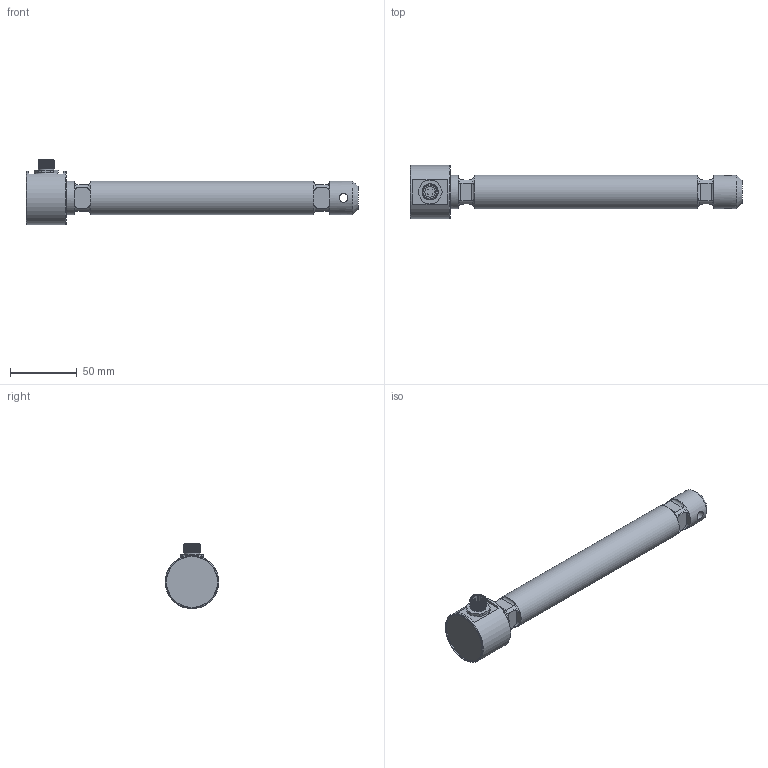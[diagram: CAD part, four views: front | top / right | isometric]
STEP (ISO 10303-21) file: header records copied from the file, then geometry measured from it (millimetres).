
FILE_DESCRIPTION(/* description */ ('Alibre Inc.'),/* implementation_level */ '2;1');
FILE_NAME(/* name */ 'export0',/* time_stamp */ '2013-12-19T11:17:39+01:00',/* author */ (''),/* organization */ (''),/* preprocessor_version */ 'ST-DEVELOPER v14',/* originating_system */ 'Alibre',/* authorisation */ '');
FILE_SCHEMA (('CONFIG_CONTROL_DESIGN'));
Length unit declared in the file: centimetre
Products named in the file (6): ID_1; ID_2
Bounding box: 248 x 40 x 48.86 mm (x, y, z)
Volume: 137230.1 mm3; surface area: 28173.7 mm2
Topology: 8 solids, 8 shells, 201 faces, 455 edges, 278 vertices
Faces by surface type: plane 81, cylinder 73, bspline 23, torus 17, cone 7
Full cylindrical faces by diameter (mm): 0.5 x8, 6.5 x1, 8 x2, 10 x4, 11.5 x1, 13 x1, 14.376 x1, 25 x3, 38 x1, 40 x1
Entity records: 19061 total; most frequent: CARTESIAN_POINT 14874, ORIENTED_EDGE 836, DIRECTION 513, EDGE_CURVE 413, VERTEX_POINT 268, FACE_BOUND 250, EDGE_LOOP 249, AXIS2_PLACEMENT_3D 228
